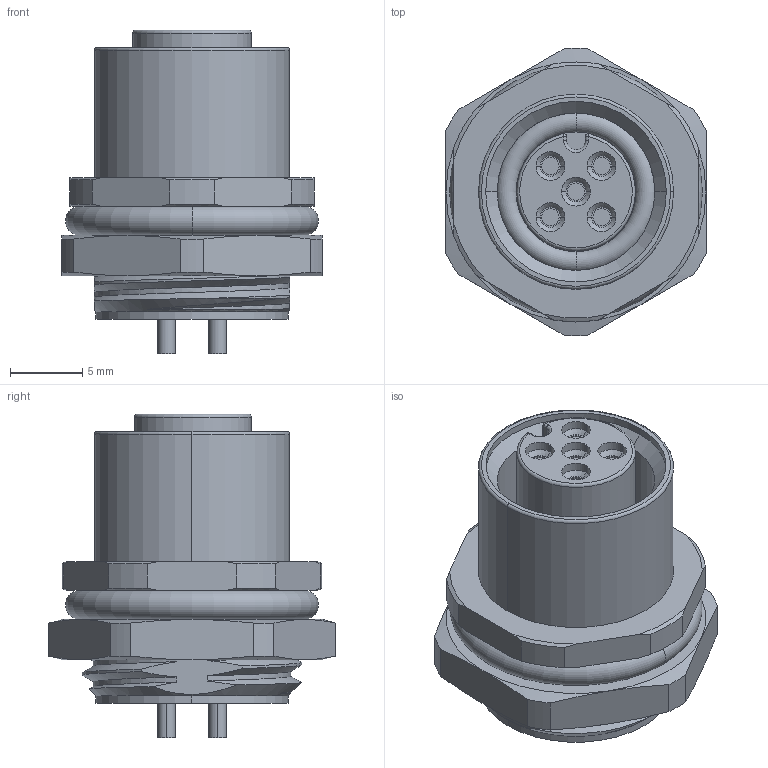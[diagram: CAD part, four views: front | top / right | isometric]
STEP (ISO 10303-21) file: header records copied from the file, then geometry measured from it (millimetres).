
FILE_DESCRIPTION((''),'2;1');
FILE_NAME('C-T4171310004-001','2022-09-22T04:47:54',('workeradm'),('TE Connectivity Ltd.'),'CREO PARAMETRIC BY PTC INC, 2021072','CREO PARAMETRIC BY PTC INC, 2021072','');
FILE_SCHEMA(('AUTOMOTIVE_DESIGN { 1 0 10303 214 1 1 1 1 }'));
Length unit declared in the file: millimetre
Products named in the file (1): C-T4171310004-001
Bounding box: 18 x 19.89 x 22.4 mm (x, y, z)
Volume: 3155.2 mm3; surface area: 2176.4 mm2
Topology: 1 solids, 1 shells, 163 faces, 380 edges, 240 vertices
Faces by surface type: cylinder 59, plane 39, cone 38, bspline 17, torus 8, sphere 2
Entity records: 7449 total; most frequent: CARTESIAN_POINT 3632, ORIENTED_EDGE 760, DIRECTION 748, EDGE_CURVE 380, AXIS2_PLACEMENT_3D 315, VERTEX_POINT 240, EDGE_LOOP 184, CIRCLE 169
